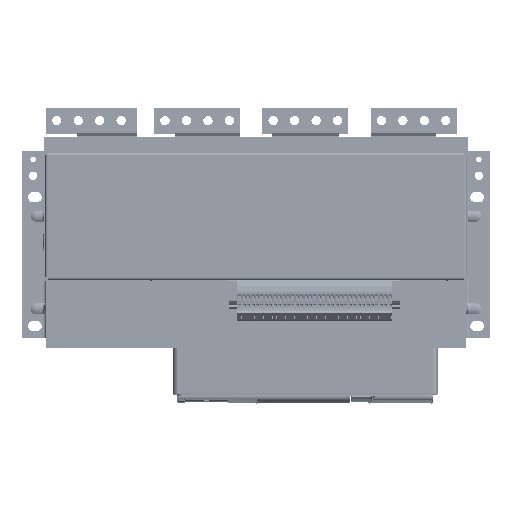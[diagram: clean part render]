
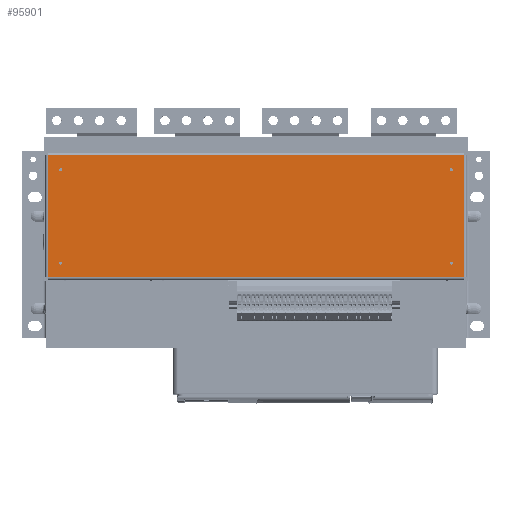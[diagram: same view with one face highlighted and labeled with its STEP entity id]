
A CAD part, top view. The second image highlights one B-rep face of the part: STEP entity #95901.
In plain terms, the highlighted planar face has unit normal (0, 0, 1) as drawn and (0, -1, 0) by its records, which use the part's own axes.
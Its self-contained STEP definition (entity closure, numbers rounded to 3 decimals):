
#4283=FACE_BOUND('',#13358,.T.);
#4284=FACE_BOUND('',#13359,.T.);
#4285=FACE_BOUND('',#13360,.T.);
#4286=FACE_BOUND('',#13361,.T.);
#7947=FACE_OUTER_BOUND('',#13357,.T.);
#13357=EDGE_LOOP('',(#78549,#78550,#78551,#78552));
#13358=EDGE_LOOP('',(#78553));
#13359=EDGE_LOOP('',(#78554));
#13360=EDGE_LOOP('',(#78555));
#13361=EDGE_LOOP('',(#78556));
#17690=CIRCLE('',#103413,1.75);
#17691=CIRCLE('',#103415,1.75);
#17692=CIRCLE('',#103416,1.75);
#17693=CIRCLE('',#103417,1.75);
#24534=LINE('',#194328,#34190);
#24535=LINE('',#194330,#34191);
#24536=LINE('',#194332,#34192);
#24537=LINE('',#194333,#34193);
#34190=VECTOR('',#122650,142.);
#34191=VECTOR('',#122651,485.);
#34192=VECTOR('',#122652,142.);
#34193=VECTOR('',#122653,485.);
#43671=VERTEX_POINT('',#194322);
#43672=VERTEX_POINT('',#194326);
#43673=VERTEX_POINT('',#194327);
#43674=VERTEX_POINT('',#194329);
#43675=VERTEX_POINT('',#194331);
#43676=VERTEX_POINT('',#194334);
#43677=VERTEX_POINT('',#194336);
#43678=VERTEX_POINT('',#194338);
#55861=EDGE_CURVE('',#43671,#43671,#17690,.T.);
#55862=EDGE_CURVE('',#43672,#43673,#24534,.T.);
#55863=EDGE_CURVE('',#43673,#43674,#24535,.T.);
#55864=EDGE_CURVE('',#43674,#43675,#24536,.T.);
#55865=EDGE_CURVE('',#43675,#43672,#24537,.T.);
#55866=EDGE_CURVE('',#43676,#43676,#17691,.T.);
#55867=EDGE_CURVE('',#43677,#43677,#17692,.T.);
#55868=EDGE_CURVE('',#43678,#43678,#17693,.T.);
#78549=ORIENTED_EDGE('',*,*,#55862,.T.);
#78550=ORIENTED_EDGE('',*,*,#55863,.T.);
#78551=ORIENTED_EDGE('',*,*,#55864,.T.);
#78552=ORIENTED_EDGE('',*,*,#55865,.T.);
#78553=ORIENTED_EDGE('',*,*,#55866,.F.);
#78554=ORIENTED_EDGE('',*,*,#55867,.F.);
#78555=ORIENTED_EDGE('',*,*,#55868,.F.);
#78556=ORIENTED_EDGE('',*,*,#55861,.F.);
#90739=PLANE('',#103414);
#95901=ADVANCED_FACE('',(#7947,#4283,#4284,#4285,#4286),#90739,.F.);
#103413=AXIS2_PLACEMENT_3D('',#194324,#122646,#122647);
#103414=AXIS2_PLACEMENT_3D('',#194325,#122648,#122649);
#103415=AXIS2_PLACEMENT_3D('',#194335,#122654,#122655);
#103416=AXIS2_PLACEMENT_3D('',#194337,#122656,#122657);
#103417=AXIS2_PLACEMENT_3D('',#194339,#122658,#122659);
#122646=DIRECTION('center_axis',(0.,-1.,0.));
#122647=DIRECTION('ref_axis',(-1.,0.,0.));
#122648=DIRECTION('center_axis',(0.,1.,0.));
#122649=DIRECTION('ref_axis',(1.,0.,0.));
#122650=DIRECTION('',(0.,0.,-1.));
#122651=DIRECTION('',(1.,0.,0.));
#122652=DIRECTION('',(0.,0.,1.));
#122653=DIRECTION('',(-1.,0.,0.));
#122654=DIRECTION('center_axis',(0.,-1.,0.));
#122655=DIRECTION('ref_axis',(-1.,0.,0.));
#122656=DIRECTION('center_axis',(0.,-1.,0.));
#122657=DIRECTION('ref_axis',(1.,0.,0.));
#122658=DIRECTION('center_axis',(0.,-1.,0.));
#122659=DIRECTION('ref_axis',(1.,0.,0.));
#194322=CARTESIAN_POINT('',(-225.75,-79.,54.5));
#194324=CARTESIAN_POINT('Origin',(-227.5,-79.,54.5));
#194325=CARTESIAN_POINT('Origin',(0.,-79.,0.));
#194326=CARTESIAN_POINT('',(-242.5,-79.,71.));
#194327=CARTESIAN_POINT('',(-242.5,-79.,-71.));
#194328=CARTESIAN_POINT('',(-242.5,-79.,71.));
#194329=CARTESIAN_POINT('',(242.5,-79.,-71.));
#194330=CARTESIAN_POINT('',(-242.5,-79.,-71.));
#194331=CARTESIAN_POINT('',(242.5,-79.,71.));
#194332=CARTESIAN_POINT('',(242.5,-79.,-71.));
#194333=CARTESIAN_POINT('',(242.5,-79.,71.));
#194334=CARTESIAN_POINT('',(-225.75,-79.,-54.5));
#194335=CARTESIAN_POINT('Origin',(-227.5,-79.,-54.5));
#194336=CARTESIAN_POINT('',(225.75,-79.,-54.5));
#194337=CARTESIAN_POINT('Origin',(227.5,-79.,-54.5));
#194338=CARTESIAN_POINT('',(225.75,-79.,54.5));
#194339=CARTESIAN_POINT('Origin',(227.5,-79.,54.5));
